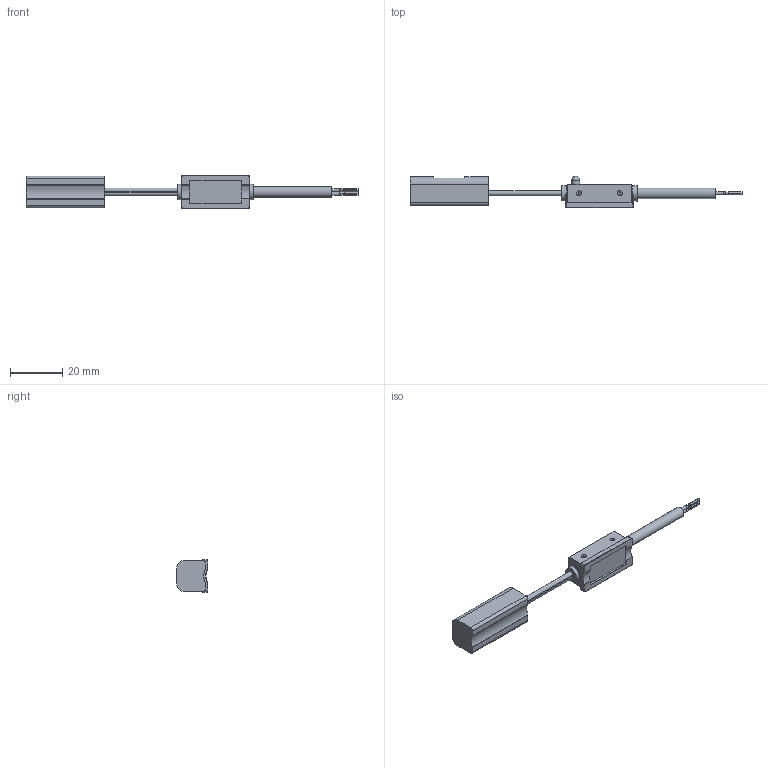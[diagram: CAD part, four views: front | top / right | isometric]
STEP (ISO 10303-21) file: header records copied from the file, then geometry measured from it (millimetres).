
FILE_DESCRIPTION(/* description */ ('Unknown'),/* implementation_level */ '2;1');
FILE_NAME(/* name */ 'RCV',/* time_stamp */ '2021-11-03T16:24:36+08:00',/* author */ ('Unknown'),/* organization */ ('Unknown'),/* preprocessor_version */ 'ST-DEVELOPER v16.7',/* originating_system */ 'DEX',/* authorisation */ $);
FILE_SCHEMA (('AUTOMOTIVE_DESIGN {1 0 10303 214 3 1 1}'));
Length unit declared in the file: millimetre
Products named in the file (1): RCV
Bounding box: 127 x 12 x 12.59 mm (x, y, z)
Volume: 4595.6 mm3; surface area: 5170.2 mm2
Topology: 2 solids, 2 shells, 231 faces, 589 edges, 376 vertices
Faces by surface type: plane 109, cylinder 93, bspline 19, cone 7, torus 2, sphere 1
Full cylindrical faces by diameter (mm): 0.8 x2, 1.1 x6, 1.2 x2, 3 x4, 4 x2, 4.05 x1, 4.6 x1, 6 x1
Entity records: 7848 total; most frequent: CARTESIAN_POINT 2395, DIRECTION 1151, ORIENTED_EDGE 1098, EDGE_CURVE 549, AXIS2_PLACEMENT_3D 454, VERTEX_POINT 363, EDGE_LOOP 280, FACE_BOUND 280
